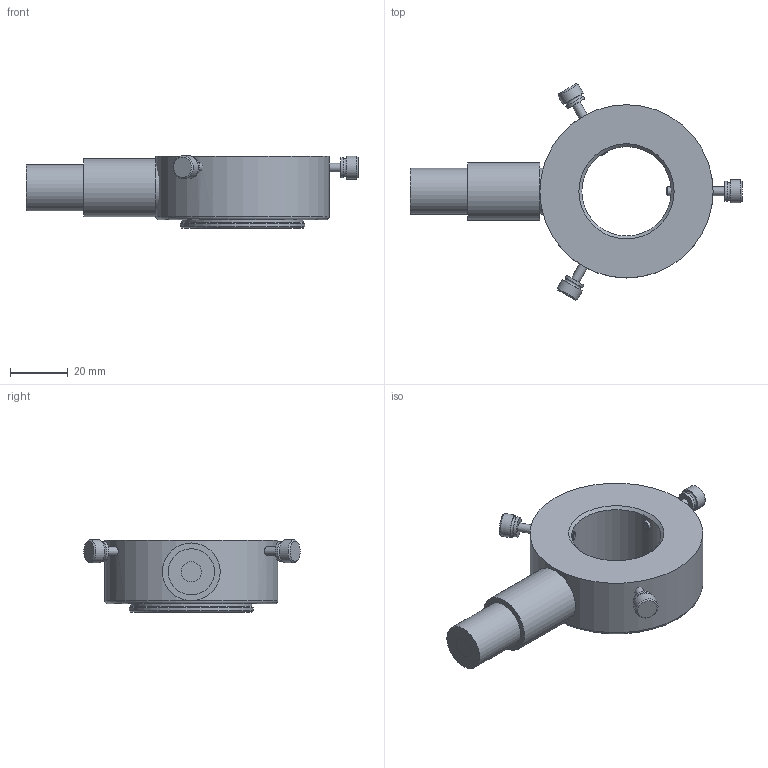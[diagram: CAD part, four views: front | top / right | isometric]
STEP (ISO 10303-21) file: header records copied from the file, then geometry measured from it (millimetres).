
FILE_DESCRIPTION(/* description */ (''),/* implementation_level */ '2;1');
FILE_NAME(/* name */ '',/* time_stamp */ '2023-04-11T13:09:47+09:00',/* author */ (''),/* organization */ (''),/* preprocessor_version */ 'ST-DEVELOPER v19.2',/* originating_system */ 'Autodesk Translation Framework v11.17.0.187',/* authorisation */ '');
FILE_SCHEMA (('AUTOMOTIVE_DESIGN { 1 0 10303 214 3 1 1 }'));
Length unit declared in the file: millimetre
Products named in the file (2): R31 共通照射部; M3L20　ローレットネジ
Assembly tree (3 placements, depth 2):
  R31 共通照射部
    M3L20　ローレットネジ  x3
Bounding box: 115 x 74.98 x 25.12 mm (x, y, z)
Volume: 61552.9 mm3; surface area: 16483.7 mm2
Topology: 6 solids, 6 shells, 54 faces, 94 edges, 61 vertices
Faces by surface type: plane 21, cylinder 20, cone 9, torus 4
Full cylindrical faces by diameter (mm): 2.529 x3, 3 x3, 7 x4, 8 x3, 16 x2, 20 x1, 31 x1, 42 x1, 43 x1, 60 x1
Entity records: 1115 total; most frequent: CARTESIAN_POINT 348, DIRECTION 159, ORIENTED_EDGE 124, AXIS2_PLACEMENT_3D 70, EDGE_CURVE 62, EDGE_LOOP 47, VERTEX_POINT 41, FACE_OUTER_BOUND 34
